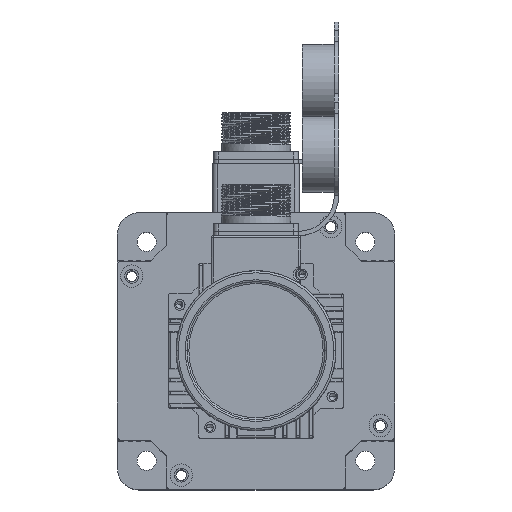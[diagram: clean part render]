
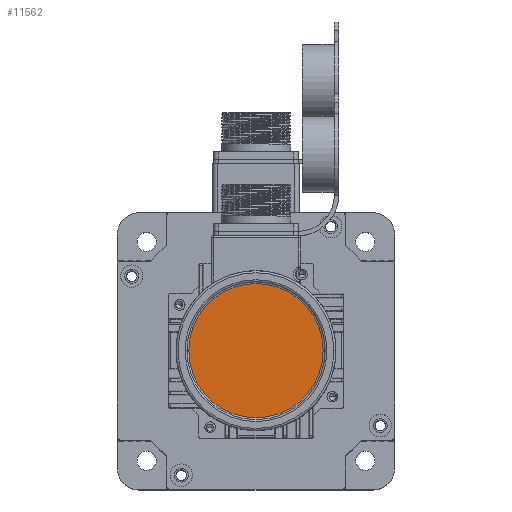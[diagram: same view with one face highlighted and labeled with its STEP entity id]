
A CAD part, top view. The second image highlights one B-rep face of the part: STEP entity #11562.
In plain terms, the highlighted planar face has unit normal (0, 0, 1) as drawn and (0, 0, -1) by its records, which use the part's own axes.
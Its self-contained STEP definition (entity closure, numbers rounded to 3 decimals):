
#323 = CARTESIAN_POINT ( 'NONE',  ( 0., 0., -41.5 ) ) ;
#3852 = DIRECTION ( 'NONE',  ( -1., 0., 0. ) ) ;
#4274 = PLANE ( 'NONE',  #38823 ) ;
#4544 = DIRECTION ( 'NONE',  ( 0., 0., -1. ) ) ;
#7846 = DIRECTION ( 'NONE',  ( -1., 0., 0. ) ) ;
#8488 = EDGE_LOOP ( 'NONE', ( #10440, #32730 ) ) ;
#9092 = CIRCLE ( 'NONE', #23872, 31.5 ) ;
#10006 = VERTEX_POINT ( 'NONE', #44342 ) ;
#10440 = ORIENTED_EDGE ( 'NONE', *, *, #35008, .T. ) ;
#11562 = ADVANCED_FACE ( 'NONE', ( #30353 ), #4274, .T. ) ;
#14258 = AXIS2_PLACEMENT_3D ( 'NONE', #323, #24853, #3852 ) ;
#20579 = EDGE_CURVE ( 'NONE', #10006, #36105, #30769, .T. ) ;
#23872 = AXIS2_PLACEMENT_3D ( 'NONE', #25536, #4544, #29024 ) ;
#24853 = DIRECTION ( 'NONE',  ( 0., 0., -1. ) ) ;
#25536 = CARTESIAN_POINT ( 'NONE',  ( 0., 0., -41.5 ) ) ;
#26294 = CARTESIAN_POINT ( 'NONE',  ( -31.5, 0., -41.5 ) ) ;
#28763 = DIRECTION ( 'NONE',  ( 0., 0., -1. ) ) ;
#29024 = DIRECTION ( 'NONE',  ( -1., 0., 0. ) ) ;
#30353 = FACE_OUTER_BOUND ( 'NONE', #8488, .T. ) ;
#30769 = CIRCLE ( 'NONE', #14258, 31.5 ) ;
#32730 = ORIENTED_EDGE ( 'NONE', *, *, #20579, .T. ) ;
#35008 = EDGE_CURVE ( 'NONE', #36105, #10006, #9092, .T. ) ;
#35588 = CARTESIAN_POINT ( 'NONE',  ( 0., 0., -41.5 ) ) ;
#36105 = VERTEX_POINT ( 'NONE', #26294 ) ;
#38823 = AXIS2_PLACEMENT_3D ( 'NONE', #35588, #28763, #7846 ) ;
#44342 = CARTESIAN_POINT ( 'NONE',  ( 31.5, 0., -41.5 ) ) ;
